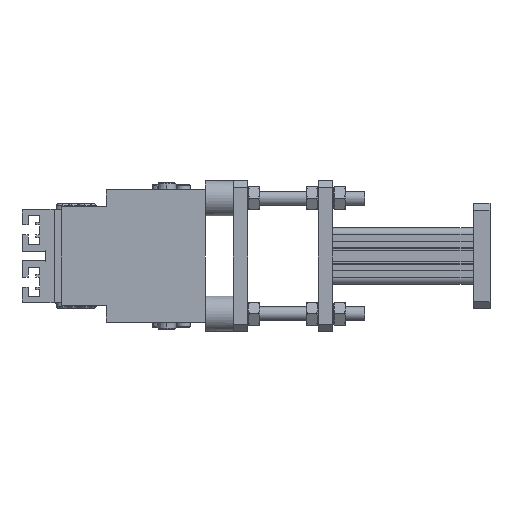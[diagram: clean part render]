
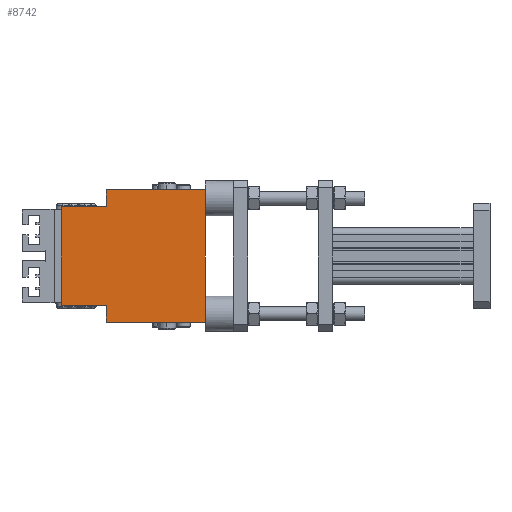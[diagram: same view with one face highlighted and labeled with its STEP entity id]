
A CAD part, left-side view. The second image highlights one B-rep face of the part: STEP entity #8742.
In plain terms, the highlighted planar face has unit normal (-1, 0, 0).
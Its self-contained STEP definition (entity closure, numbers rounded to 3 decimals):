
#126 = ORIENTED_EDGE ( 'NONE', *, *, #21169, .T. ) ;
#596 = CARTESIAN_POINT ( 'NONE',  ( -221.181, 86.256, 485. ) ) ;
#707 = LINE ( 'NONE', #12013, #19759 ) ;
#1089 = EDGE_CURVE ( 'NONE', #1822, #8131, #7672, .T. ) ;
#1822 = VERTEX_POINT ( 'NONE', #596 ) ;
#2526 = CARTESIAN_POINT ( 'NONE',  ( -221.181, -15.984, 87.382 ) ) ;
#3276 = ORIENTED_EDGE ( 'NONE', *, *, #28017, .T. ) ;
#4083 = VERTEX_POINT ( 'NONE', #28923 ) ;
#4139 = CARTESIAN_POINT ( 'NONE',  ( -221.181, -13.744, 415. ) ) ;
#4844 = CARTESIAN_POINT ( 'NONE',  ( -221.181, -13.744, 485. ) ) ;
#4884 = CARTESIAN_POINT ( 'NONE',  ( -221.181, 54.256, 415. ) ) ;
#6829 = CARTESIAN_POINT ( 'NONE',  ( -221.181, 54.256, 485. ) ) ;
#7233 = DIRECTION ( 'NONE',  ( 0., 1., 0. ) ) ;
#7360 = DIRECTION ( 'NONE',  ( 1., 0., 0. ) ) ;
#7672 = LINE ( 'NONE', #8053, #11919 ) ;
#7847 = EDGE_CURVE ( 'NONE', #33573, #1822, #21525, .T. ) ;
#7949 = DIRECTION ( 'NONE',  ( 0., 0., -1. ) ) ;
#8053 = CARTESIAN_POINT ( 'NONE',  ( -221.181, -13.744, 485. ) ) ;
#8131 = VERTEX_POINT ( 'NONE', #31975 ) ;
#8196 = EDGE_CURVE ( 'NONE', #33404, #33573, #36178, .T. ) ;
#8742 = ADVANCED_FACE ( 'NONE', ( #24874 ), #22144, .F. ) ;
#9140 = VERTEX_POINT ( 'NONE', #12221 ) ;
#9569 = DIRECTION ( 'NONE',  ( 0., 0., 1. ) ) ;
#9680 = ORIENTED_EDGE ( 'NONE', *, *, #1089, .F. ) ;
#9962 = VECTOR ( 'NONE', #25983, 1000. ) ;
#10811 = CARTESIAN_POINT ( 'NONE',  ( -221.181, 11.256, 403. ) ) ;
#11689 = CARTESIAN_POINT ( 'NONE',  ( -221.181, 86.256, 415. ) ) ;
#11919 = VECTOR ( 'NONE', #17007, 1000. ) ;
#12013 = CARTESIAN_POINT ( 'NONE',  ( -221.181, 54.256, 485. ) ) ;
#12221 = CARTESIAN_POINT ( 'NONE',  ( -221.181, 54.256, 403. ) ) ;
#12251 = VERTEX_POINT ( 'NONE', #22599 ) ;
#12573 = DIRECTION ( 'NONE',  ( 0., 0., 1. ) ) ;
#13492 = ORIENTED_EDGE ( 'NONE', *, *, #25990, .F. ) ;
#14046 = VERTEX_POINT ( 'NONE', #29334 ) ;
#14145 = CARTESIAN_POINT ( 'NONE',  ( -221.181, 11.256, 497. ) ) ;
#15202 = VECTOR ( 'NONE', #22660, 1000. ) ;
#15288 = VECTOR ( 'NONE', #30430, 1000. ) ;
#15833 = EDGE_LOOP ( 'NONE', ( #3276, #26346, #9680, #16731, #21413, #13492, #126, #19743 ) ) ;
#16731 = ORIENTED_EDGE ( 'NONE', *, *, #7847, .F. ) ;
#17007 = DIRECTION ( 'NONE',  ( 0., -1., 0. ) ) ;
#17067 = LINE ( 'NONE', #14145, #9962 ) ;
#17105 = DIRECTION ( 'NONE',  ( 0., 0., 1. ) ) ;
#19743 = ORIENTED_EDGE ( 'NONE', *, *, #27603, .T. ) ;
#19759 = VECTOR ( 'NONE', #12573, 1000. ) ;
#20968 = VECTOR ( 'NONE', #7233, 1000. ) ;
#21169 = EDGE_CURVE ( 'NONE', #9140, #4083, #25571, .T. ) ;
#21413 = ORIENTED_EDGE ( 'NONE', *, *, #8196, .F. ) ;
#21525 = LINE ( 'NONE', #35871, #15288 ) ;
#22144 = PLANE ( 'NONE',  #28398 ) ;
#22599 = CARTESIAN_POINT ( 'NONE',  ( -221.181, -15.984, 497. ) ) ;
#22660 = DIRECTION ( 'NONE',  ( 0., -1., 0. ) ) ;
#24874 = FACE_OUTER_BOUND ( 'NONE', #15833, .T. ) ;
#25571 = LINE ( 'NONE', #10811, #15202 ) ;
#25983 = DIRECTION ( 'NONE',  ( 0., 1., 0. ) ) ;
#25990 = EDGE_CURVE ( 'NONE', #9140, #33404, #707, .T. ) ;
#26346 = ORIENTED_EDGE ( 'NONE', *, *, #32164, .F. ) ;
#26799 = LINE ( 'NONE', #2526, #34721 ) ;
#27603 = EDGE_CURVE ( 'NONE', #4083, #12251, #26799, .T. ) ;
#28017 = EDGE_CURVE ( 'NONE', #12251, #14046, #17067, .T. ) ;
#28398 = AXIS2_PLACEMENT_3D ( 'NONE', #4844, #7360, #7949 ) ;
#28923 = CARTESIAN_POINT ( 'NONE',  ( -221.181, -15.984, 403. ) ) ;
#29334 = CARTESIAN_POINT ( 'NONE',  ( -221.181, 54.256, 497. ) ) ;
#30319 = LINE ( 'NONE', #6829, #35495 ) ;
#30430 = DIRECTION ( 'NONE',  ( 0., 0., 1. ) ) ;
#31975 = CARTESIAN_POINT ( 'NONE',  ( -221.181, 54.256, 485. ) ) ;
#32164 = EDGE_CURVE ( 'NONE', #8131, #14046, #30319, .T. ) ;
#33404 = VERTEX_POINT ( 'NONE', #4884 ) ;
#33573 = VERTEX_POINT ( 'NONE', #11689 ) ;
#34721 = VECTOR ( 'NONE', #17105, 1000. ) ;
#35495 = VECTOR ( 'NONE', #9569, 1000. ) ;
#35871 = CARTESIAN_POINT ( 'NONE',  ( -221.181, 86.256, 485. ) ) ;
#36178 = LINE ( 'NONE', #4139, #20968 ) ;
